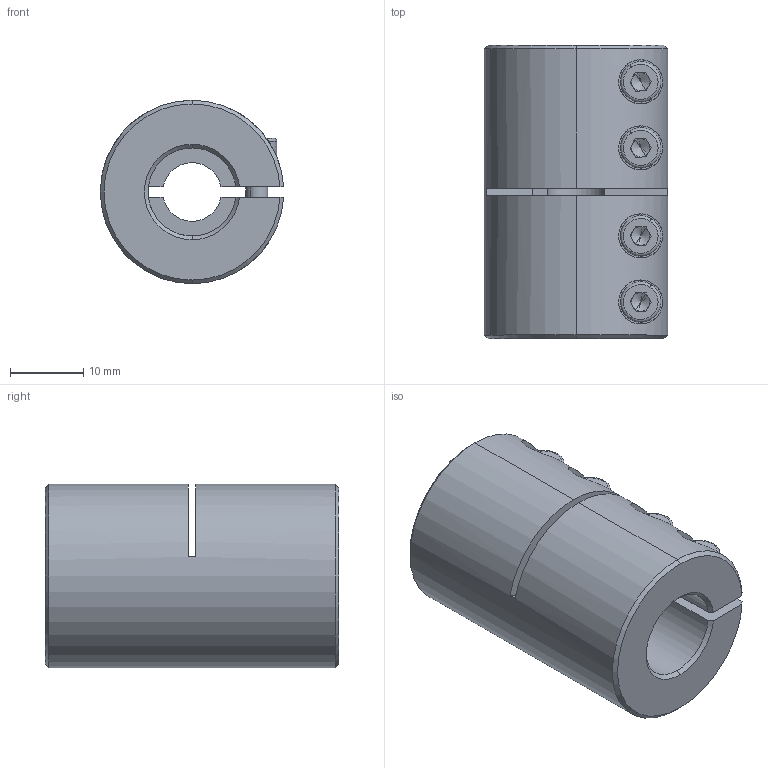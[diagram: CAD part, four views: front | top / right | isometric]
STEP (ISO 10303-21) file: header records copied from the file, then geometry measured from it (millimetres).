
FILE_DESCRIPTION (( 'STEP AP214' ), '1' );
FILE_NAME ('LL-B-D25L40-8-12½¨Ä£.STEP', '2022-07-21T05:17:35', ( '' ), ( '' ), 'SwSTEP 2.0', 'SolidWorks 2022', '' );
FILE_SCHEMA (( 'AUTOMOTIVE_DESIGN' ));
Length unit declared in the file: millimetre
Products named in the file (1): LL-B-D25L40-8-12膘耀
Bounding box: 24.98 x 40 x 25 mm (x, y, z)
Volume: 15419.8 mm3; surface area: 7179.3 mm2
Topology: 1 solids, 1 shells, 178 faces, 454 edges, 286 vertices
Faces by surface type: plane 85, cylinder 65, cone 20, torus 8
Entity records: 5830 total; most frequent: CARTESIAN_POINT 1438, DIRECTION 944, ORIENTED_EDGE 892, EDGE_CURVE 446, AXIS2_PLACEMENT_3D 364, VERTEX_POINT 286, VECTOR 216, LINE 216
